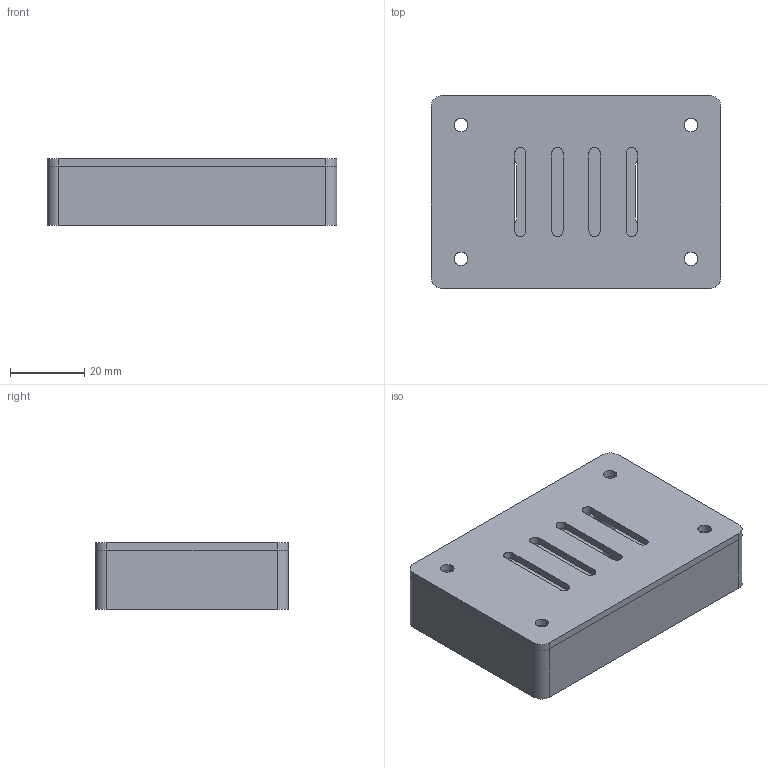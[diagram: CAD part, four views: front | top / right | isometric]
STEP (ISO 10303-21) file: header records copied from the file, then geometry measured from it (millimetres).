
FILE_DESCRIPTION(('Open CASCADE Model'),'2;1');
FILE_NAME('Open CASCADE Shape Model','2026-09-20T04:25:34',('Author'),( 'Open CASCADE'),'Open CASCADE STEP processor 7.9','Open CASCADE 7.9' ,'Unknown');
FILE_SCHEMA(('AUTOMOTIVE_DESIGN { 1 0 10303 214 1 1 1 1 }'));
Length unit declared in the file: millimetre
Products named in the file (3): 52a3633a-b4ab-11f1-bca5-a68942af9f2b; tray; lid
Assembly tree (2 placements, depth 2):
  52a3633a-b4ab-11f1-bca5-a68942af9f2b
    tray
    lid
Bounding box: 78 x 52 x 18 mm (x, y, z)
Volume: 29573.4 mm3; surface area: 25800.7 mm2
Topology: 2 solids, 2 shells, 69 faces, 180 edges, 120 vertices
Faces by surface type: cylinder 36, plane 33
Full cylindrical faces by diameter (mm): 3.6 x8, 9 x4
Entity records: 4672 total; most frequent: CARTESIAN_POINT 952, DIRECTION 706, LINE 380, VECTOR 380, ORIENTED_EDGE 360, PCURVE 360, DEFINITIONAL_REPRESENTATION 360, EDGE_CURVE 180
